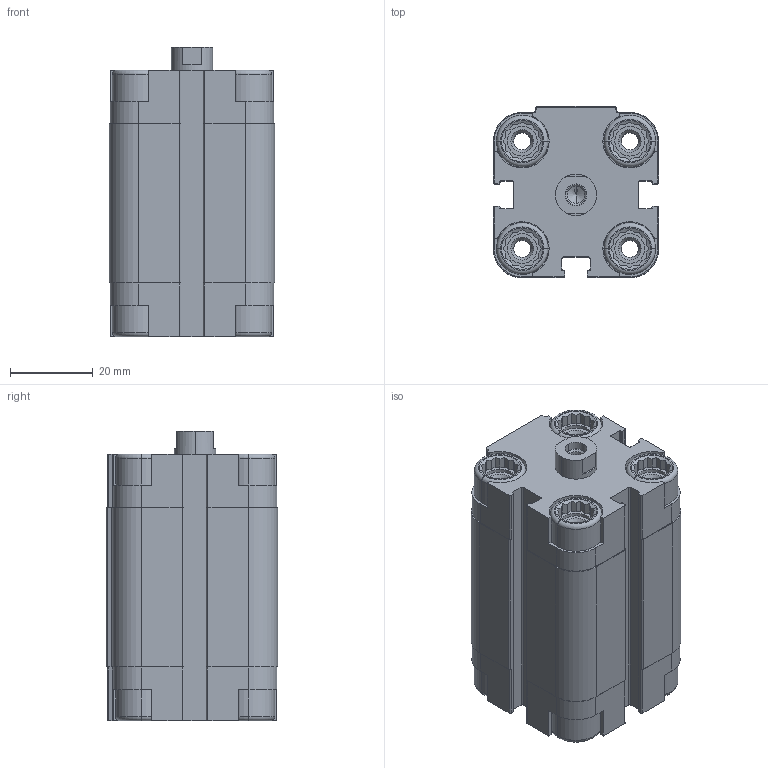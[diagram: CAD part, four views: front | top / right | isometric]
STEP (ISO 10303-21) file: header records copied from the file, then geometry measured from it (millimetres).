
FILE_DESCRIPTION (( 'STEP AP203' ), '1' );
FILE_NAME ('CDVU25-25F.STEP', '2020-03-30T14:56:22', ( '' ), ( '' ), 'SwSTEP 2.0', 'SolidWorks 2019', '' );
FILE_SCHEMA (( 'CONFIG_CONTROL_DESIGN' ));
Length unit declared in the file: millimetre
Products named in the file (1): CDVU25-25F
Bounding box: 40 x 41.5 x 70 mm (x, y, z)
Volume: 74936.6 mm3; surface area: 30131.6 mm2
Topology: 2 solids, 2 shells, 583 faces, 1540 edges, 995 vertices
Faces by surface type: plane 351, cylinder 170, cone 46, torus 16
Entity records: 18183 total; most frequent: CARTESIAN_POINT 3689, ORIENTED_EDGE 3068, DIRECTION 2926, EDGE_CURVE 1534, AXIS2_PLACEMENT_3D 1000, VERTEX_POINT 995, VECTOR 926, LINE 926
